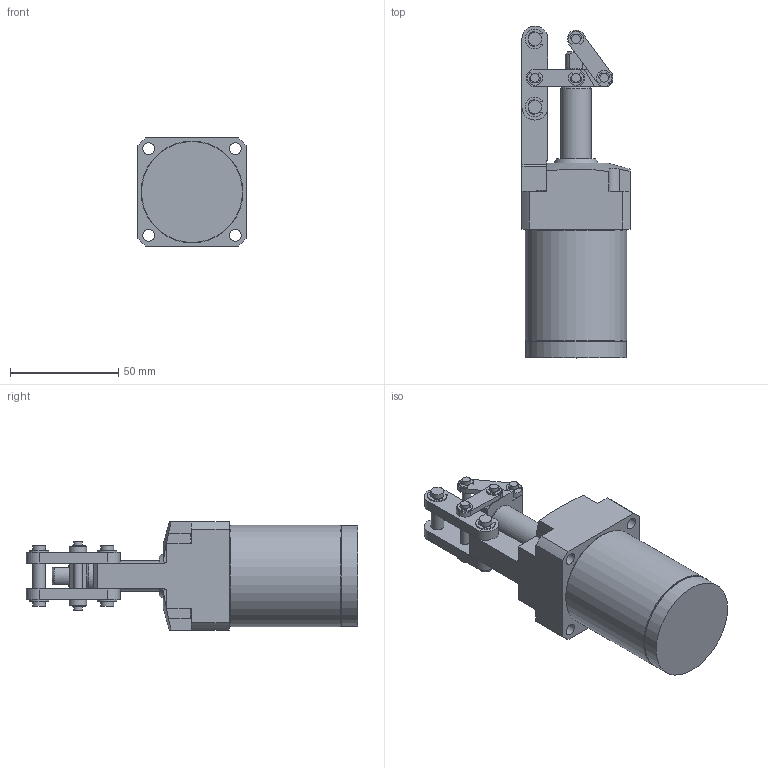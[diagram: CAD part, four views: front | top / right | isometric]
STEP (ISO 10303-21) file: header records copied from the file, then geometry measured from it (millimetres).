
FILE_DESCRIPTION( ( '' ), '1' );
FILE_NAME( 'W:/Catalogue/JLF5H/JLF5H28-34K/JLF5H28-34K.stp', '2008-05-26T02:35:54', ( '機械事業部産業機器グループ' ), ( '豊和工業株式会社' ), 'XStep 1.0', ' ', ' ' );
FILE_SCHEMA( ( 'CONFIG_CONTROL_DESIGN' ) );
Length unit declared in the file: millimetre
Products named in the file (6): Assem1; 1; 2; 3; 4; 5
Bounding box: 50 x 153.5 x 50 mm (x, y, z)
Volume: 336462.7 mm3; surface area: 89123 mm2
Topology: 10 solids, 14 shells, 848 faces, 2210 edges, 1474 vertices
Faces by surface type: plane 446, cylinder 372, cone 28, torus 2
Full cylindrical faces by diameter (mm): 2 x2, 3 x16, 3.5 x2, 4 x40, 5.5 x8, 6 x14, 8.3 x4, 10 x2, 14 x4, 16 x2, 20 x2, 24 x4, 25 x2, 28 x2, 46 x4, 46.7 x2, 47 x2
Entity records: 12920 total; most frequent: DIRECTION 2290, CARTESIAN_POINT 2254, ORIENTED_EDGE 2002, EDGE_CURVE 1001, AXIS2_PLACEMENT_3D 876, VERTEX_POINT 704, EDGE_LOOP 560, LINE 538
